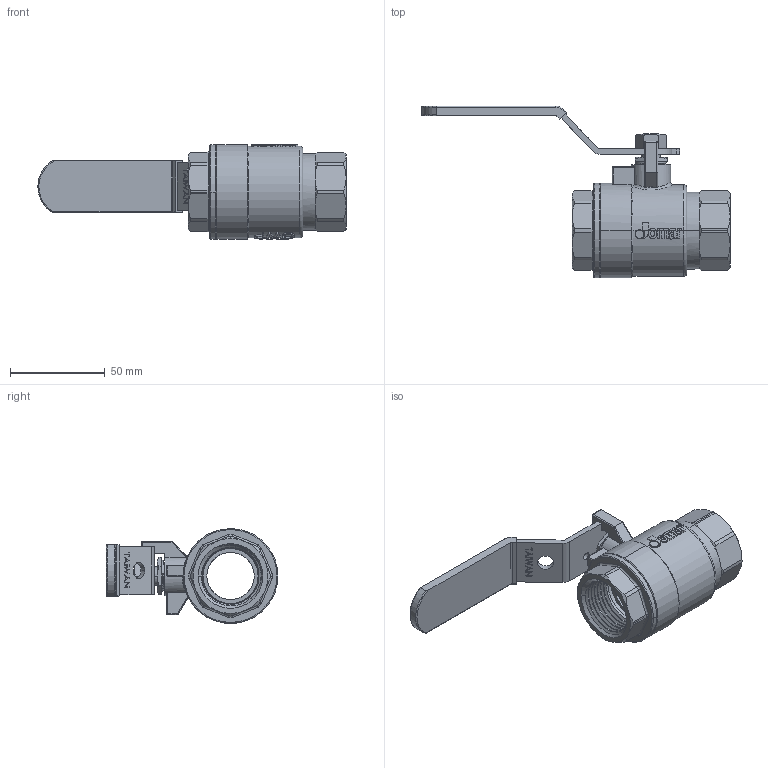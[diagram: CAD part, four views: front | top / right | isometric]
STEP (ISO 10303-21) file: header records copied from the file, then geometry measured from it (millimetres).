
FILE_DESCRIPTION (( 'STEP AP203' ), '1' );
FILE_NAME ('ABL705-無掛鎖-1''''JOMAR球閥組合-無鉛-2025.STEP', '2025-06-25T06:34:48', ( '' ), ( '' ), 'SwSTEP 2.0', 'SolidWorks 2018', '' );
FILE_SCHEMA (( 'CONFIG_CONTROL_DESIGN' ));
Length unit declared in the file: millimetre
Products named in the file (13): TBL265(無鑽孔); EBL215э; BBL705A-1''''JOMAR球閥八角頭-端面無插溝; CBL235-20230914改; RBL264; CBL215-白色膠套-T-200CSSG; ABL705-無掛鎖-1''''JOMAR球閥組合-無鉛-2025; DN20-CBL704-HANDLE & SLEEVE 組合(白色T膠套); EBL205B; EBL205A; NBL265; GBL205 (組裝); BBL705-1''''JOMAR球閥體-無鉛-端面無插溝
Assembly tree (13 placements, depth 3):
  ABL705-無掛鎖-1''''JOMAR球閥組合-無鉛-2025
    BBL705-1''''JOMAR球閥體-無鉛-端面無插溝
    RBL264
    EBL205A
    EBL205B
    GBL205 (組裝)
    BBL705A-1''''JOMAR球閥八角頭-端面無插溝
    EBL215э  x2
    NBL265
    TBL265(無鑽孔)
    DN20-CBL704-HANDLE & SLEEVE 組合(白色T膠套)
      CBL235-20230914改
      CBL215-白色膠套-T-200CSSG
Bounding box: 162.7 x 90.71 x 50 mm (x, y, z)
Volume: 100616.3 mm3; surface area: 67488.8 mm2
Topology: 12 solids, 12 shells, 2239 faces, 5978 edges, 3933 vertices
Faces by surface type: plane 1179, bspline 634, cylinder 267, cone 116, torus 29, sphere 14
Entity records: 117046 total; most frequent: CARTESIAN_POINT 65124, ORIENTED_EDGE 11880, DIRECTION 7955, EDGE_CURVE 5940, VERTEX_POINT 3913, VECTOR 3669, LINE 3669, EDGE_LOOP 2429
